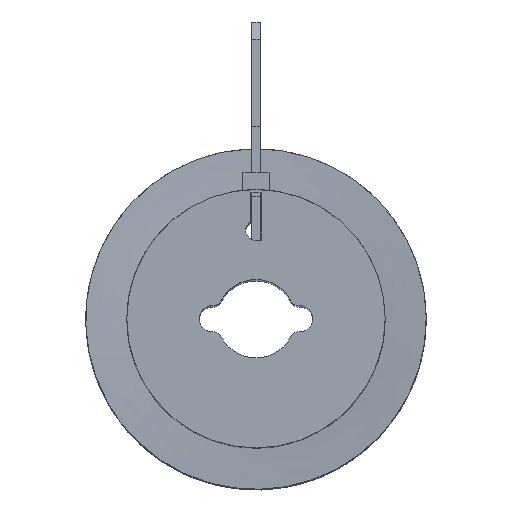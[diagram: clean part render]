
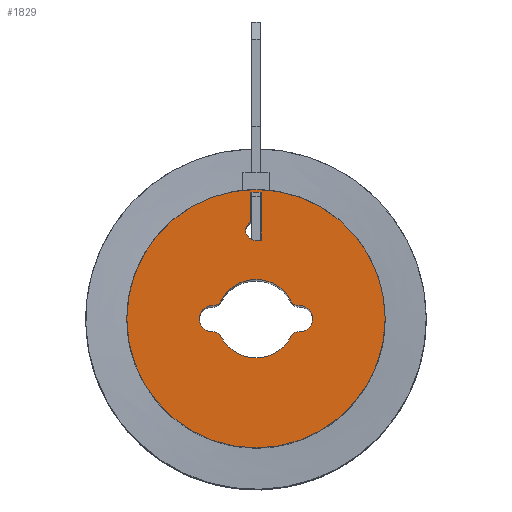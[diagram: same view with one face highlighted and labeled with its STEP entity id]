
A CAD part, top view. The second image highlights one B-rep face of the part: STEP entity #1829.
In plain terms, the highlighted planar face has unit normal (0, 0, 1).
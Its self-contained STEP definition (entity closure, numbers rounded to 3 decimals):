
#24=FACE_BOUND($,#340,.T.);
#25=FACE_BOUND($,#341,.T.);
#30=CIRCLE($,#1849,14.8);
#44=CIRCLE($,#1865,14.5);
#71=CIRCLE($,#1957,1.1);
#72=CIRCLE($,#1960,4.5);
#73=CIRCLE($,#1961,1.);
#74=CIRCLE($,#1962,1.5);
#75=CIRCLE($,#1963,1.);
#76=CIRCLE($,#1964,4.5);
#77=CIRCLE($,#1965,1.);
#78=CIRCLE($,#1966,1.5);
#79=CIRCLE($,#1967,1.);
#169=PLANE($,#1959);
#244=FACE_OUTER_BOUND($,#339,.T.);
#339=EDGE_LOOP($,(#1606));
#340=EDGE_LOOP($,(#1607,#1608,#1609,#1610,#1611));
#341=EDGE_LOOP($,(#1612,#1613,#1614,#1615,#1616,#1617,#1618,#1619));
#502=LINE($,#4490,#688);
#527=LINE($,#4544,#713);
#530=LINE($,#4553,#716);
#688=VECTOR($,#2324,0.7);
#713=VECTOR($,#2387,5.488);
#716=VECTOR($,#2398,3.408);
#748=VERTEX_POINT($,#4138);
#775=VERTEX_POINT($,#4196);
#776=VERTEX_POINT($,#4198);
#872=VERTEX_POINT($,#4487);
#873=VERTEX_POINT($,#4489);
#885=VERTEX_POINT($,#4548);
#886=VERTEX_POINT($,#4555);
#887=VERTEX_POINT($,#4556);
#888=VERTEX_POINT($,#4558);
#889=VERTEX_POINT($,#4560);
#890=VERTEX_POINT($,#4562);
#891=VERTEX_POINT($,#4564);
#892=VERTEX_POINT($,#4566);
#893=VERTEX_POINT($,#4568);
#922=EDGE_CURVE($,#748,#748,#30,.T.);
#952=EDGE_CURVE($,#776,#775,#44,.T.);
#1098=EDGE_CURVE($,#873,#872,#502,.T.);
#1126=EDGE_CURVE($,#775,#873,#527,.T.);
#1129=EDGE_CURVE($,#872,#885,#71,.T.);
#1131=EDGE_CURVE($,#885,#776,#530,.T.);
#1132=EDGE_CURVE($,#886,#887,#72,.T.);
#1133=EDGE_CURVE($,#887,#888,#73,.T.);
#1134=EDGE_CURVE($,#888,#889,#74,.T.);
#1135=EDGE_CURVE($,#889,#890,#75,.T.);
#1136=EDGE_CURVE($,#890,#891,#76,.T.);
#1137=EDGE_CURVE($,#891,#892,#77,.T.);
#1138=EDGE_CURVE($,#892,#893,#78,.T.);
#1139=EDGE_CURVE($,#893,#886,#79,.T.);
#1606=ORIENTED_EDGE($,*,*,#922,.T.);
#1607=ORIENTED_EDGE($,*,*,#1131,.T.);
#1608=ORIENTED_EDGE($,*,*,#952,.T.);
#1609=ORIENTED_EDGE($,*,*,#1126,.T.);
#1610=ORIENTED_EDGE($,*,*,#1098,.T.);
#1611=ORIENTED_EDGE($,*,*,#1129,.T.);
#1612=ORIENTED_EDGE($,*,*,#1132,.T.);
#1613=ORIENTED_EDGE($,*,*,#1133,.T.);
#1614=ORIENTED_EDGE($,*,*,#1134,.T.);
#1615=ORIENTED_EDGE($,*,*,#1135,.T.);
#1616=ORIENTED_EDGE($,*,*,#1136,.T.);
#1617=ORIENTED_EDGE($,*,*,#1137,.T.);
#1618=ORIENTED_EDGE($,*,*,#1138,.T.);
#1619=ORIENTED_EDGE($,*,*,#1139,.T.);
#1829=ADVANCED_FACE($,(#244,#24,#25),#169,.T.);
#1849=AXIS2_PLACEMENT_3D($,#4139,#2011,#2012);
#1865=AXIS2_PLACEMENT_3D($,#4199,#2059,#2060);
#1957=AXIS2_PLACEMENT_3D($,#4550,#2393,#2394);
#1959=AXIS2_PLACEMENT_3D($,#4554,#2399,#2400);
#1960=AXIS2_PLACEMENT_3D($,#4557,#2401,#2402);
#1961=AXIS2_PLACEMENT_3D($,#4559,#2403,#2404);
#1962=AXIS2_PLACEMENT_3D($,#4561,#2405,#2406);
#1963=AXIS2_PLACEMENT_3D($,#4563,#2407,#2408);
#1964=AXIS2_PLACEMENT_3D($,#4565,#2409,#2410);
#1965=AXIS2_PLACEMENT_3D($,#4567,#2411,#2412);
#1966=AXIS2_PLACEMENT_3D($,#4569,#2413,#2414);
#1967=AXIS2_PLACEMENT_3D($,#4570,#2415,#2416);
#2011=DIRECTION('center_axis',(0.,0.,
1.));
#2012=DIRECTION('ref_axis',(-1.,0.,0.));
#2059=DIRECTION('center_axis',(0.,0.,
-1.));
#2060=DIRECTION('ref_axis',(-1.,0.,0.));
#2324=DIRECTION($,(-1.,0.,0.));
#2387=DIRECTION($,(0.,-1.,0.));
#2393=DIRECTION('center_axis',(0.,0.,-1.));
#2394=DIRECTION('ref_axis',(0.455,-0.891,0.));
#2398=DIRECTION($,(0.,1.,0.));
#2399=DIRECTION('center_axis',(0.,0.,1.));
#2400=DIRECTION('ref_axis',(1.,0.,0.));
#2401=DIRECTION('center_axis',(0.,0.,-1.));
#2402=DIRECTION('ref_axis',(0.891,0.454,0.));
#2403=DIRECTION('center_axis',(0.,0.,1.));
#2404=DIRECTION('ref_axis',(0.891,0.454,0.));
#2405=DIRECTION('center_axis',(0.,0.,-1.));
#2406=DIRECTION('ref_axis',(-0.04,-0.999,0.));
#2407=DIRECTION('center_axis',(0.,0.,1.));
#2408=DIRECTION('ref_axis',(-0.04,-0.999,0.));
#2409=DIRECTION('center_axis',(0.,0.,-1.));
#2410=DIRECTION('ref_axis',(-0.891,-0.454,0.));
#2411=DIRECTION('center_axis',(0.,0.,1.));
#2412=DIRECTION('ref_axis',(-0.891,-0.454,0.));
#2413=DIRECTION('center_axis',(0.,0.,-1.));
#2414=DIRECTION('ref_axis',(0.04,0.999,0.));
#2415=DIRECTION('center_axis',(0.,0.,1.));
#2416=DIRECTION('ref_axis',(0.04,0.999,0.));
#4138=CARTESIAN_POINT('',(14.8,0.,50.));
#4139=CARTESIAN_POINT('Origin',(0.,0.,
50.));
#4196=CARTESIAN_POINT('',(0.6,14.488,50.));
#4198=CARTESIAN_POINT('',(-0.6,14.488,50.));
#4199=CARTESIAN_POINT('Origin',(0.,0.,
50.));
#4487=CARTESIAN_POINT('',(-0.1,9.,50.));
#4489=CARTESIAN_POINT('',(0.6,9.,50.));
#4490=CARTESIAN_POINT($,(-0.05,9.,50.));
#4544=CARTESIAN_POINT($,(0.6,4.5,50.));
#4548=CARTESIAN_POINT('',(-0.6,11.08,50.));
#4550=CARTESIAN_POINT('Origin',(-0.1,10.1,50.));
#4553=CARTESIAN_POINT($,(-0.6,7.244,50.));
#4554=CARTESIAN_POINT('Origin',(0.,0.,50.));
#4555=CARTESIAN_POINT('',(-4.009,2.044,50.));
#4556=CARTESIAN_POINT('',(4.009,2.044,50.));
#4557=CARTESIAN_POINT('Origin',(0.,0.,50.));
#4558=CARTESIAN_POINT('',(4.94,1.499,50.));
#4559=CARTESIAN_POINT('Origin',(4.9,2.498,50.));
#4560=CARTESIAN_POINT('',(4.94,-1.499,50.));
#4561=CARTESIAN_POINT('Origin',(5.,0.,50.));
#4562=CARTESIAN_POINT('',(4.009,-2.044,50.));
#4563=CARTESIAN_POINT('Origin',(4.9,-2.498,50.));
#4564=CARTESIAN_POINT('',(-4.009,-2.044,50.));
#4565=CARTESIAN_POINT('Origin',(0.,0.,50.));
#4566=CARTESIAN_POINT('',(-4.94,-1.499,50.));
#4567=CARTESIAN_POINT('Origin',(-4.9,-2.498,50.));
#4568=CARTESIAN_POINT('',(-4.94,1.499,50.));
#4569=CARTESIAN_POINT('Origin',(-5.,0.,50.));
#4570=CARTESIAN_POINT('Origin',(-4.9,2.498,50.));
